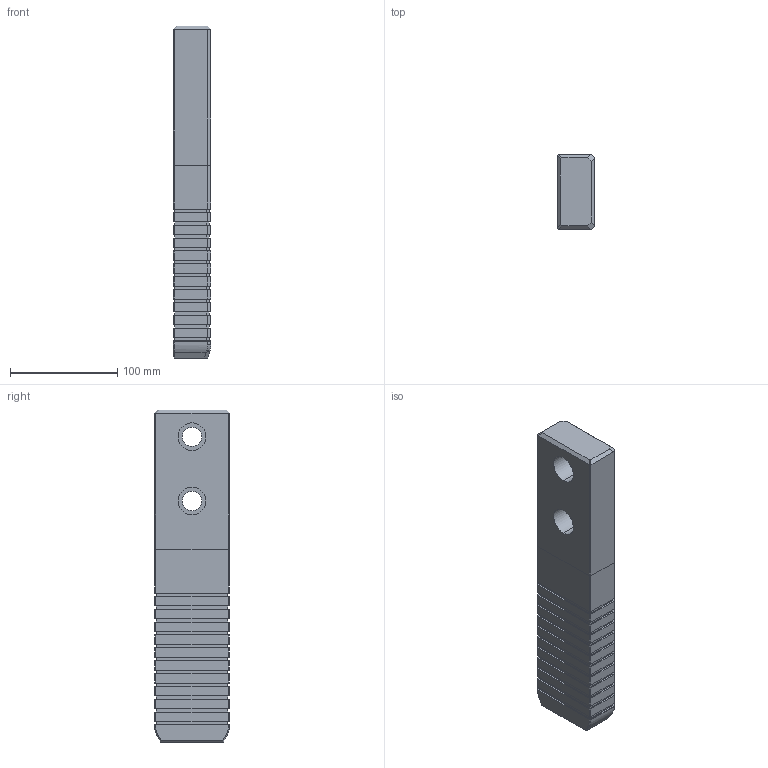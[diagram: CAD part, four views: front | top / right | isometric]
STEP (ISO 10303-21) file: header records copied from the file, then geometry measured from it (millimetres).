
FILE_DESCRIPTION((''),'2;1');
FILE_NAME('','2010-08-30T13:12:58+09:00',('misumi'),(''),'M/STEP i/f 1R2-14','CADmeister v5.1','');
FILE_SCHEMA(('AUTOMOTIVE_DESIGN'));
Length unit declared in the file: millimetre
Products named in the file (1): GWBZ70-310
Bounding box: 35 x 70 x 310 mm (x, y, z)
Volume: 714701.3 mm3; surface area: 77629.7 mm2
Topology: 1 solids, 1 shells, 253 faces, 659 edges, 432 vertices
Faces by surface type: plane 234, cylinder 11, bspline 6, cone 2
Entity records: 7959 total; most frequent: CARTESIAN_POINT 1687, ORIENTED_EDGE 1318, DIRECTION 1157, EDGE_CURVE 659, LINE 621, VECTOR 621, VERTEX_POINT 432, EDGE_LOOP 281
